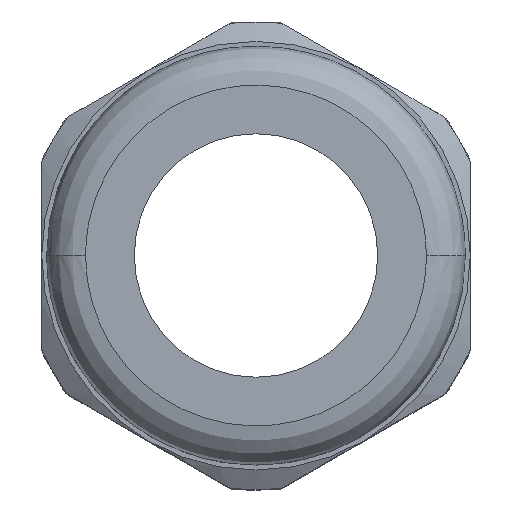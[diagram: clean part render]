
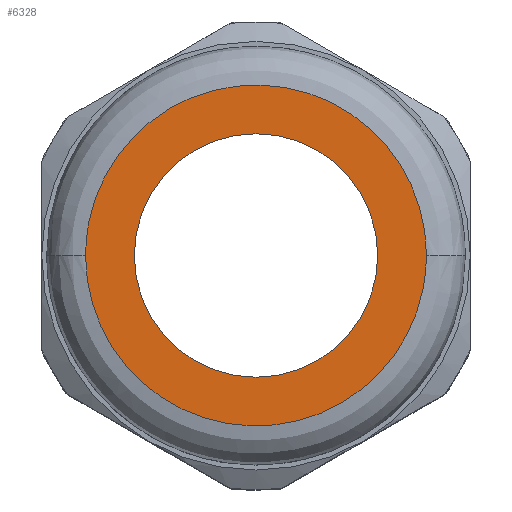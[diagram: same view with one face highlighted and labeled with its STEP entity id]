
A CAD part, top view. The second image highlights one B-rep face of the part: STEP entity #6328.
In plain terms, the highlighted planar face has unit normal (0, 0, 1).
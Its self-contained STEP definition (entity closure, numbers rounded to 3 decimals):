
#145 = EDGE_LOOP ( 'NONE', ( #13392, #12063 ) ) ;
#174 = EDGE_CURVE ( 'NONE', #979, #11314, #7433, .T. ) ;
#444 = CARTESIAN_POINT ( 'NONE',  ( 2.82, 8.303, 10. ) ) ;
#521 = CARTESIAN_POINT ( 'NONE',  ( -1.142, 8.694, 10. ) ) ;
#641 = CARTESIAN_POINT ( 'NONE',  ( -2.272, -8.469, 10. ) ) ;
#667 = CARTESIAN_POINT ( 'NONE',  ( 8.694, 1.142, 10. ) ) ;
#781 = CARTESIAN_POINT ( 'NONE',  ( 0.572, -8.75, 10. ) ) ;
#892 = FACE_BOUND ( 'NONE', #8783, .T. ) ;
#979 = VERTEX_POINT ( 'NONE', #12474 ) ;
#1042 = FACE_OUTER_BOUND ( 'NONE', #145, .T. ) ;
#1437 = AXIS2_PLACEMENT_3D ( 'NONE', #3185, #12191, #2077 ) ;
#1820 = CARTESIAN_POINT ( 'NONE',  ( 6.955, -5.34, 10. ) ) ;
#1889 = CARTESIAN_POINT ( 'NONE',  ( 2.272, -8.469, 10. ) ) ;
#2077 = DIRECTION ( 'NONE',  ( 1., 0., 0. ) ) ;
#2649 = CARTESIAN_POINT ( 'NONE',  ( 8.303, 2.82, 10. ) ) ;
#2723 = CARTESIAN_POINT ( 'NONE',  ( 8.75, 0., 10. ) ) ;
#2795 = CARTESIAN_POINT ( 'NONE',  ( 3.877, 7.865, 10. ) ) ;
#2875 = CARTESIAN_POINT ( 'NONE',  ( -7.865, 3.877, 10. ) ) ;
#2919 = CARTESIAN_POINT ( 'NONE',  ( -0.572, -8.75, 10. ) ) ;
#2930 = EDGE_CURVE ( 'NONE', #4261, #5556, #5596, .T. ) ;
#2944 = CARTESIAN_POINT ( 'NONE',  ( -8.75, 0.573, 10. ) ) ;
#3063 = CARTESIAN_POINT ( 'NONE',  ( -1.142, -8.694, 10. ) ) ;
#3134 = CARTESIAN_POINT ( 'NONE',  ( 3.877, -7.865, 10. ) ) ;
#3185 = CARTESIAN_POINT ( 'NONE',  ( 0., 10.75, 10. ) ) ;
#4029 = CARTESIAN_POINT ( 'NONE',  ( 8.303, -2.82, 10. ) ) ;
#4055 = CARTESIAN_POINT ( 'NONE',  ( -8.694, 1.142, 10. ) ) ;
#4163 = CARTESIAN_POINT ( 'NONE',  ( 8.694, -1.142, 10. ) ) ;
#4261 = VERTEX_POINT ( 'NONE', #6091 ) ;
#4294 = CARTESIAN_POINT ( 'NONE',  ( 0., 0., 10. ) ) ;
#4934 = CARTESIAN_POINT ( 'NONE',  ( -5.34, 6.955, 10. ) ) ;
#5011 = CARTESIAN_POINT ( 'NONE',  ( -2.272, 8.469, 10. ) ) ;
#5086 = CARTESIAN_POINT ( 'NONE',  ( -4.382, 7.595, 10. ) ) ;
#5154 = CARTESIAN_POINT ( 'NONE',  ( 7.595, 4.382, 10. ) ) ;
#5266 = CARTESIAN_POINT ( 'NONE',  ( 8.75, -0.572, 10. ) ) ;
#5340 = CARTESIAN_POINT ( 'NONE',  ( -5.783, -6.592, 10. ) ) ;
#5556 = VERTEX_POINT ( 'NONE', #10626 ) ;
#5596 = B_SPLINE_CURVE_WITH_KNOTS ( 'NONE', 3,
 ( #2723, #8409, #667, #6048, #2649, #13002, #5154, #14114, #9666, #10539, #6203, #11735, #2795, #444, #7302, #6344, #6128, #11814, #521, #5011, #10846, #10696, #5086, #4934, #9438, #9519, #9594, #8557, #2875, #13077, #14188, #4055, #2944, #11953 ),
 .UNSPECIFIED., .F., .F.,
 ( 4, 2, 2, 2, 2, 2, 2, 2, 2, 2, 2, 2, 2, 2, 2, 2, 4 ),
 ( 0.5, 0.531, 0.563, 0.594, 0.625, 0.656, 0.687, 0.719, 0.75, 0.781, 0.812, 0.844, 0.875, 0.906, 0.938, 0.969, 1. ),
 .UNSPECIFIED. ) ;
#5828 = CARTESIAN_POINT ( 'NONE',  ( -6.25, 0., 10. ) ) ;
#5893 = CIRCLE ( 'NONE', #9906, 6.25 ) ;
#6048 = CARTESIAN_POINT ( 'NONE',  ( 8.469, 2.272, 10. ) ) ;
#6091 = CARTESIAN_POINT ( 'NONE',  ( 8.75, 0., 10. ) ) ;
#6128 = CARTESIAN_POINT ( 'NONE',  ( 0.572, 8.75, 10. ) ) ;
#6203 = CARTESIAN_POINT ( 'NONE',  ( 5.34, 6.955, 10. ) ) ;
#6328 = ADVANCED_FACE ( 'NONE', ( #1042, #892 ), #14422, .T. ) ;
#6344 = CARTESIAN_POINT ( 'NONE',  ( 1.142, 8.694, 10. ) ) ;
#6391 = CARTESIAN_POINT ( 'NONE',  ( 5.34, -6.955, 10. ) ) ;
#6512 = DIRECTION ( 'NONE',  ( 0., 0., -1. ) ) ;
#6584 = DIRECTION ( 'NONE',  ( -1., 0., 0. ) ) ;
#6705 = DIRECTION ( 'NONE',  ( 0., 0., -1. ) ) ;
#7122 = CARTESIAN_POINT ( 'NONE',  ( -6.955, -5.34, 10. ) ) ;
#7302 = CARTESIAN_POINT ( 'NONE',  ( 2.272, 8.469, 10. ) ) ;
#7423 = CARTESIAN_POINT ( 'NONE',  ( -5.34, -6.955, 10. ) ) ;
#7433 = CIRCLE ( 'NONE', #7660, 6.25 ) ;
#7567 = CARTESIAN_POINT ( 'NONE',  ( -2.82, -8.303, 10. ) ) ;
#7660 = AXIS2_PLACEMENT_3D ( 'NONE', #4294, #6512, #6584 ) ;
#8168 = CARTESIAN_POINT ( 'NONE',  ( -8.694, -1.142, 10. ) ) ;
#8240 = CARTESIAN_POINT ( 'NONE',  ( -7.865, -3.877, 10. ) ) ;
#8409 = CARTESIAN_POINT ( 'NONE',  ( 8.75, 0.572, 10. ) ) ;
#8557 = CARTESIAN_POINT ( 'NONE',  ( -7.595, 4.382, 10. ) ) ;
#8751 = CARTESIAN_POINT ( 'NONE',  ( 1.142, -8.694, 10. ) ) ;
#8783 = EDGE_LOOP ( 'NONE', ( #10991, #12429 ) ) ;
#9267 = CARTESIAN_POINT ( 'NONE',  ( -8.75, 0., 10. ) ) ;
#9334 = CARTESIAN_POINT ( 'NONE',  ( -8.303, -2.82, 10. ) ) ;
#9438 = CARTESIAN_POINT ( 'NONE',  ( -5.782, 6.592, 10. ) ) ;
#9519 = CARTESIAN_POINT ( 'NONE',  ( -6.592, 5.783, 10. ) ) ;
#9571 = CARTESIAN_POINT ( 'NONE',  ( 8.469, -2.272, 10. ) ) ;
#9594 = CARTESIAN_POINT ( 'NONE',  ( -6.955, 5.34, 10. ) ) ;
#9666 = CARTESIAN_POINT ( 'NONE',  ( 6.592, 5.782, 10. ) ) ;
#9783 = CARTESIAN_POINT ( 'NONE',  ( 8.75, 0., 10. ) ) ;
#9906 = AXIS2_PLACEMENT_3D ( 'NONE', #14354, #6705, #11979 ) ;
#10539 = CARTESIAN_POINT ( 'NONE',  ( 5.783, 6.592, 10. ) ) ;
#10626 = CARTESIAN_POINT ( 'NONE',  ( -8.75, 0., 10. ) ) ;
#10696 = CARTESIAN_POINT ( 'NONE',  ( -3.877, 7.865, 10. ) ) ;
#10748 = CARTESIAN_POINT ( 'NONE',  ( -4.382, -7.595, 10. ) ) ;
#10846 = CARTESIAN_POINT ( 'NONE',  ( -2.82, 8.303, 10. ) ) ;
#10886 = CARTESIAN_POINT ( 'NONE',  ( 7.865, -3.877, 10. ) ) ;
#10959 = CARTESIAN_POINT ( 'NONE',  ( 2.82, -8.303, 10. ) ) ;
#10991 = ORIENTED_EDGE ( 'NONE', *, *, #12411, .T. ) ;
#11020 = EDGE_CURVE ( 'NONE', #5556, #4261, #12832, .T. ) ;
#11314 = VERTEX_POINT ( 'NONE', #5828 ) ;
#11636 = CARTESIAN_POINT ( 'NONE',  ( -6.592, -5.782, 10. ) ) ;
#11735 = CARTESIAN_POINT ( 'NONE',  ( 4.382, 7.595, 10. ) ) ;
#11814 = CARTESIAN_POINT ( 'NONE',  ( -0.572, 8.75, 10. ) ) ;
#11953 = CARTESIAN_POINT ( 'NONE',  ( -8.75, 0., 10. ) ) ;
#11979 = DIRECTION ( 'NONE',  ( -1., 0., 0. ) ) ;
#11996 = CARTESIAN_POINT ( 'NONE',  ( -3.877, -7.865, 10. ) ) ;
#12063 = ORIENTED_EDGE ( 'NONE', *, *, #2930, .T. ) ;
#12070 = CARTESIAN_POINT ( 'NONE',  ( 4.382, -7.595, 10. ) ) ;
#12191 = DIRECTION ( 'NONE',  ( 0., 0., 1. ) ) ;
#12411 = EDGE_CURVE ( 'NONE', #11314, #979, #5893, .T. ) ;
#12429 = ORIENTED_EDGE ( 'NONE', *, *, #174, .T. ) ;
#12474 = CARTESIAN_POINT ( 'NONE',  ( 6.25, 0., 10. ) ) ;
#12674 = CARTESIAN_POINT ( 'NONE',  ( -8.469, -2.272, 10. ) ) ;
#12754 = CARTESIAN_POINT ( 'NONE',  ( -7.595, -4.382, 10. ) ) ;
#12832 = B_SPLINE_CURVE_WITH_KNOTS ( 'NONE', 3,
 ( #9267, #13790, #8168, #12674, #9334, #8240, #12754, #7122, #11636, #5340, #7423, #10748, #11996, #7567, #641, #3063, #2919, #781, #8751, #1889, #10959, #3134, #12070, #6391, #13053, #13119, #1820, #14087, #10886, #4029, #9571, #4163, #5266, #9783 ),
 .UNSPECIFIED., .F., .F.,
 ( 4, 2, 2, 2, 2, 2, 2, 2, 2, 2, 2, 2, 2, 2, 2, 2, 4 ),
 ( 0., 0.031, 0.062, 0.094, 0.125, 0.156, 0.187, 0.219, 0.25, 0.281, 0.313, 0.344, 0.375, 0.406, 0.437, 0.469, 0.5 ),
 .UNSPECIFIED. ) ;
#13002 = CARTESIAN_POINT ( 'NONE',  ( 7.865, 3.877, 10. ) ) ;
#13053 = CARTESIAN_POINT ( 'NONE',  ( 5.782, -6.592, 10. ) ) ;
#13077 = CARTESIAN_POINT ( 'NONE',  ( -8.303, 2.82, 10. ) ) ;
#13119 = CARTESIAN_POINT ( 'NONE',  ( 6.592, -5.783, 10. ) ) ;
#13392 = ORIENTED_EDGE ( 'NONE', *, *, #11020, .T. ) ;
#13790 = CARTESIAN_POINT ( 'NONE',  ( -8.75, -0.573, 10. ) ) ;
#14087 = CARTESIAN_POINT ( 'NONE',  ( 7.595, -4.382, 10. ) ) ;
#14114 = CARTESIAN_POINT ( 'NONE',  ( 6.955, 5.34, 10. ) ) ;
#14188 = CARTESIAN_POINT ( 'NONE',  ( -8.469, 2.272, 10. ) ) ;
#14354 = CARTESIAN_POINT ( 'NONE',  ( 0., 0., 10. ) ) ;
#14422 = PLANE ( 'NONE',  #1437 ) ;
